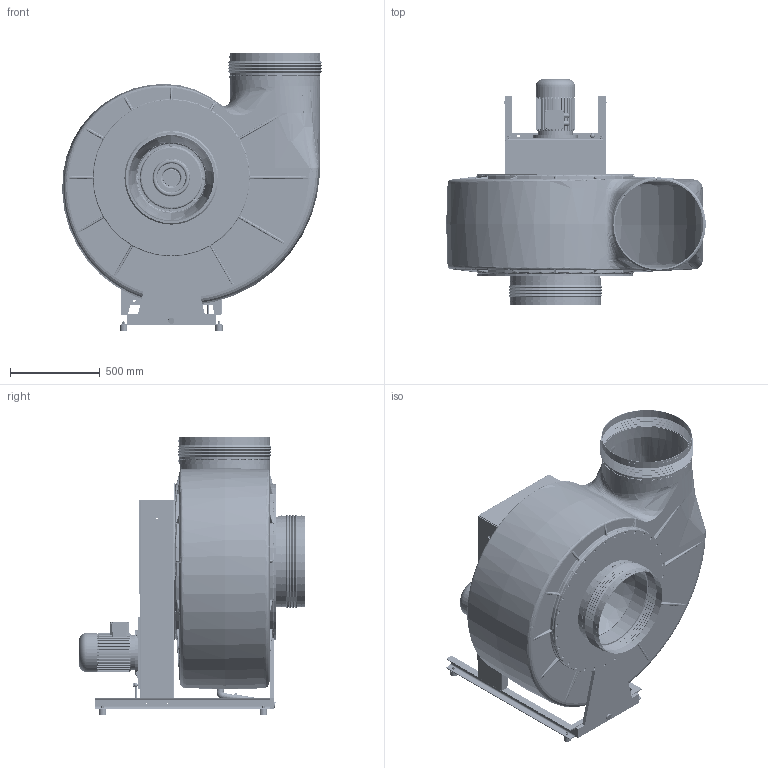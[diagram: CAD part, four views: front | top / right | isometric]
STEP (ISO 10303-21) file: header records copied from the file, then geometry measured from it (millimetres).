
FILE_DESCRIPTION( ( 'Unknown' ), '1' );
FILE_NAME( 'K:/HOME/HLT_CAD/Z/HF/3D/Zusammenstellung/HFR/HFR 15_17/HFR...-15RF/DS_1/HFR_500-15RF/GR360/HFR_500-15RF_DS1_GR_360_112.stp', 'Unknown', ( 'Unknown' ), ( 'Unknown' ), 'PSStep 14.0', 'Unknown', ' ' );
FILE_SCHEMA( ( 'AUTOMOTIVE_DESIGN { 1 0 10303 214 1 1 1 1 }' ) );
Length unit declared in the file: millimetre
Products named in the file (86): HFR 500_GR; Gehäuse 500_GR_Abgeschn; Ensat-Buchse-M8; 5140_Gehäusedeckel; 500; 5140_Rohr; GD_FL 500; 5140_Rohr_400; 5003_Man 500; 5003_Manschettenband_Ø500; 5003_4_Schelle_Ø500; 5159_Kondensatablauf_355-500; Stopfen_G1-oa7; Rohr_Ø32; Verschlusskappe_Ø31,8; Schelle; 721100108-Winkel_90°-DN25_d=32; Schlauch_Ø32; 5117_Gestell; C-Channel 65x42-oa0; C-Channel 65x42-oa1; Angle 60x30x5_links-oa2; Angle 40x40x4-oa3; Angle 40x40x4-oa4; Nut_DIN_934_M12_v7.00; Washer_DIN_128_A_12_v7.00; Screw_DIN_EN_24017_M12x35_v7.00; Washer_DIN_125_1_A_13_v7.00; Bolt_DIN_444_A_M12x90_v7.00; Screw_DIN_EN_24017_M12x45_v7.00; 5141_Klemmstein; 5117_Gehäuseplatte; 5117_Gestellstrebe-oa5; 5117_Gestellstrebe-oa6; 5117_Motorplatte; Washer_DIN_128_A_12_v7.00_mir1; 5218_Abdeckkappe; 5218_Drehteil; 5218_Flachdichtung_Ø90; 5218_Flachdichtung_Ø32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
Assembly tree (183 placements, depth 3):
  Assem1
    299T30W_715564
    1610_28  x3
    2xSPA_125
    6611_Motorring_Bg100+112
    2xSPA_100
    SPA-oa8
    SPA-oa9
    5484_Riemenschutz_500
    Schwidä_40x30  x4
    6kant_M8  x4
    5200_Stützplatte_HFR500_45°-135°_DS1
    B5_112a_2HIHI
    5117_Gestell
      C-Channel 65x42-oa0
      C-Channel 65x42-oa1
      Angle 60x30x5_links-oa2
      Angle 40x40x4-oa3
      Angle 40x40x4-oa4
      Nut_DIN_934_M12_v7.00  x5
      Washer_DIN_128_A_12_v7.00  x3
      Screw_DIN_EN_24017_M12x35_v7.00  x4
      Washer_DIN_125_1_A_13_v7.00  x2
      Bolt_DIN_444_A_M12x90_v7.00
      Screw_DIN_EN_24017_M12x45_v7.00
      5141_Klemmstein  x4
      5117_Gehäuseplatte
      5117_Gestellstrebe-oa5
      5117_Gestellstrebe-oa6
      5117_Motorplatte
      Washer_DIN_128_A_12_v7.00_mir1  x2
    HFR 500_GR
      Gehäuse 500_GR_Abgeschn
      Gehäuse 500_GR_Abgeschn
      Gehäuse 500_GR_Abgeschn
      Gehäuse 500_GR_Abgeschn
      Gehäuse 500_GR_Abgeschn
      Gehäuse 500_GR_Abgeschn
      Gehäuse 500_GR_Abgeschn
      Gehäuse 500_GR_Abgeschn
      Gehäuse 500_GR_Abgeschn
      Gehäuse 500_GR_Abgeschn
      Gehäuse 500_GR_Abgeschn
      Gehäuse 500_GR_Abgeschn
      Gehäuse 500_GR_Abgeschn
      Gehäuse 500_GR_Abgeschn
      Gehäuse 500_GR_Abgeschn
      Gehäuse 500_GR_Abgeschn
      Gehäuse 500_GR_Abgeschn
      Gehäuse 500_GR_Abgeschn
      Gehäuse 500_GR_Abgeschn
      Gehäuse 500_GR_Abgeschn
      Gehäuse 500_GR_Abgeschn
      Gehäuse 500_GR_Abgeschn
      Gehäuse 500_GR_Abgeschn
      Gehäuse 500_GR_Abgeschn
      Gehäuse 500_GR_Abgeschn
      Gehäuse 500_GR_Abgeschn
      Gehäuse 500_GR_Abgeschn
      Gehäuse 500_GR_Abgeschn
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Bounding box: 1443.7 x 1256.06 x 1541 mm (x, y, z)
Volume: 36496666.1 mm3; surface area: 17130579 mm2
Topology: 178 solids, 179 shells, 3899 faces, 8415 edges, 5351 vertices
Faces by surface type: plane 1721, cylinder 1317, bspline 367, torus 213, cone 192, sphere 47, offset 36, revolution 6
Full cylindrical faces by diameter (mm): 6.647 x80, 7 x4, 8 x14, 8.376 x1, 9 x2, 9.5 x6, 9.853 x6, 10 x4, 10.106 x5, 11 x4, 12 x269, 12.5 x1, 13 x240, 14 x16, 14.5 x4, 15 x52, 16 x12, 16.63 x5, 17 x66, 19 x4, 20 x1, 22 x1, 23 x1, 24 x6, 25 x1, 25.6 x2, 28 x3, 28.4 x2, 30.291 x1, 31 x1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
Entity records: 170716 total; most frequent: CARTESIAN_POINT 84051, DIRECTION 12944, ORIENTED_EDGE 11454, EDGE_CURVE 5727, AXIS2_PLACEMENT_3D 5466, EDGE_LOOP 4192, VERTEX_POINT 3900, FACE_OUTER_BOUND 3505
